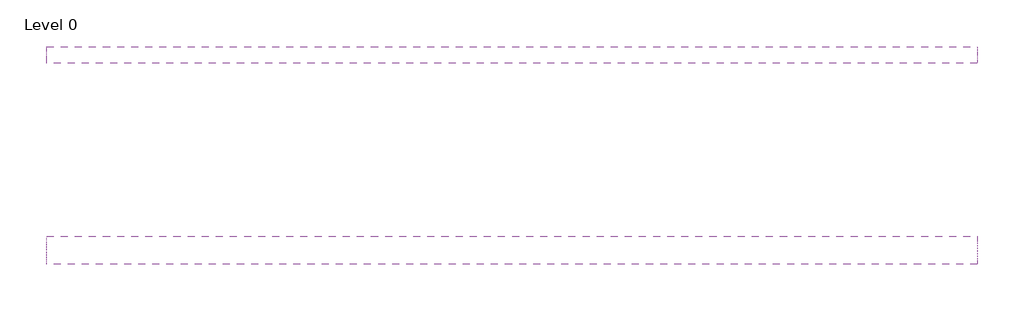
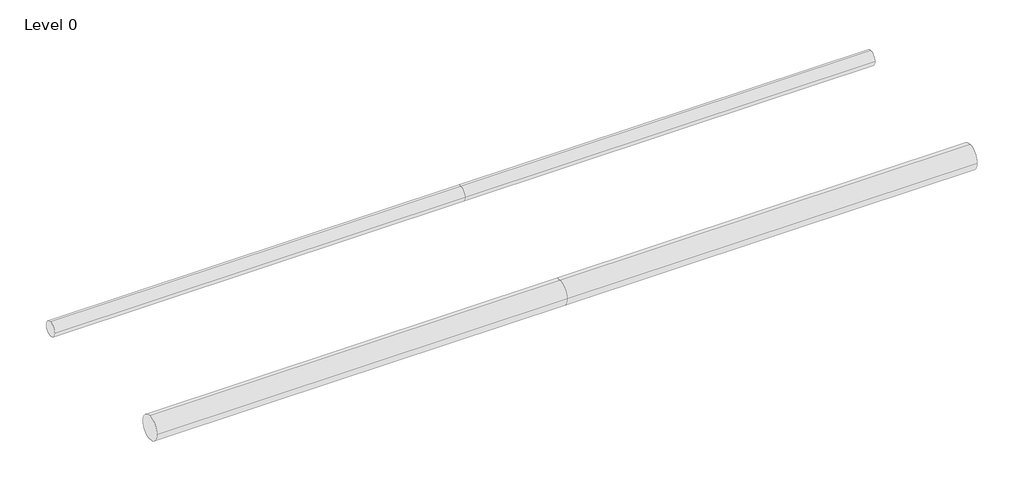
# One storey: 2 pipe segments.
"""IFC4 building model written with IfcOpenShell, lengths in millimetres."""

import ifcopenshell
import ifcopenshell.guid

model = None  # the IFC model being written
_history = None  # IfcOwnerHistory: only IFC2X3 demands one
_inside = {}  # id of a spatial element -> (the spatial element, [elements in it])
_under = {}  # id of a project, library or spatial element -> (it, [spatial elements below it])
_declared = {}  # id of a project -> (the project, [libraries it declares])
_typed = {}  # id of a type object -> (the type object, [elements of that type])
_made_of = {}  # id of a material, layer set ... -> (it, [elements and type objects made of it])


def new_model(schema):
    """Start an empty IFC model of exactly this schema.

    Asked for "IFC4X3", IfcOpenShell would pick the latest addendum, in which some entities
    have other attributes; the version numbers below select the first issue.
    IFC2X3 requires an IfcOwnerHistory on every rooted entity: one is made here for all.
    """
    global model, _history
    if schema == "IFC4X3":
        model = ifcopenshell.file(schema_version=(4, 3, 0, 0))
    else:
        model = ifcopenshell.file(schema=schema)
    _inside.clear()
    _under.clear()
    _declared.clear()
    _typed.clear()
    _made_of.clear()
    _history = None
    if model.schema == "IFC2X3":
        org = make("IfcOrganization", Name="unknown")
        user = make(
            "IfcPersonAndOrganization",
            ThePerson=make("IfcPerson", FamilyName="unknown"),
            TheOrganization=org,
        )
        app = make(
            "IfcApplication",
            ApplicationDeveloper=org,
            Version="unknown",
            ApplicationFullName="unknown",
            ApplicationIdentifier="unknown",
        )
        _history = make(
            "IfcOwnerHistory",
            OwningUser=user,
            OwningApplication=app,
            ChangeAction="ADDED",
            CreationDate=0,
        )
    return model


def make(cls, **values):
    """One entity of the class cls with the attributes given. An attribute that is None is left unset."""
    return model.create_entity(
        cls, **{name: value for name, value in values.items() if value is not None}
    )


def rooted(cls, **values):
    """An entity with a GlobalId (a new one), such as an element, a storey or a relation."""
    return make(cls, GlobalId=ifcopenshell.guid.new(), OwnerHistory=_history, **values)


def si_unit(unit_type, name, prefix=None):
    """IfcSIUnit, for example si_unit("LENGTHUNIT", "METRE", prefix="MILLI")."""
    return make("IfcSIUnit", UnitType=unit_type, Prefix=prefix, Name=name)


def assignment(units):
    """IfcUnitAssignment: the units of a project."""
    return None if units is None else make("IfcUnitAssignment", Units=units)


def point(xyz):
    """IfcCartesianPoint."""
    return None if xyz is None else make("IfcCartesianPoint", Coordinates=xyz)


def direction(xyz):
    """IfcDirection."""
    return None if xyz is None else make("IfcDirection", DirectionRatios=xyz)


def frame(location, z_axis=None, x_axis=None):
    """IfcAxis2Placement3D, a coordinate frame: its origin and axes. An axis left out is left unset."""
    return make(
        "IfcAxis2Placement3D",
        Location=point(location),
        Axis=direction(z_axis),
        RefDirection=direction(x_axis),
    )


def origin():
    """The frame at (0, 0, 0) with its axes left unset."""
    return frame((0.0, 0.0, 0.0))


def place(relative_to, where):
    """IfcLocalPlacement: puts the frame where relative to a parent placement (None: the world)."""
    return make(
        "IfcLocalPlacement", PlacementRelTo=relative_to, RelativePlacement=where
    )


def context(
    kind, dimensions, precision=None, world=None, true_north=None, identifier=None
):
    """IfcGeometricRepresentationContext, for example the 3D "Model" context."""
    return make(
        "IfcGeometricRepresentationContext",
        ContextIdentifier=identifier,
        ContextType=kind,
        CoordinateSpaceDimension=dimensions,
        Precision=precision,
        WorldCoordinateSystem=world,
        TrueNorth=true_north,
    )


def project(units=None, contexts=None):
    """IfcProject with its units and contexts."""
    return rooted(
        "IfcProject",
        Name="project",
        RepresentationContexts=contexts,
        UnitsInContext=assignment(units),
    )


def spatial(cls, under=None, at=None, **own):
    """A site, building, storey or space (cls), placed at a placement, below another one or the project."""
    s = rooted(cls, ObjectPlacement=at, **own)
    if under is not None:
        _under.setdefault(under.id(), (under, []))[1].append(s)
    return s


def circle_curve(where, radius):
    """IfcCircle in the frame where."""
    return make("IfcCircle", Position=where, Radius=radius)


def shape(context_of_items, identifier, shape_type, items):
    """IfcShapeRepresentation: the items that make up one representation, for example the "Body"."""
    return make(
        "IfcShapeRepresentation",
        ContextOfItems=context_of_items,
        RepresentationIdentifier=identifier,
        RepresentationType=shape_type,
        Items=items,
    )


def made_of(thing, what):
    """Note that an element or type object is made of a material, layer set ...; save() writes the relation."""
    if what is not None:
        _made_of.setdefault(what.id(), (what, []))[1].append(thing)
    return thing


def element(
    cls,
    number,
    at=None,
    inside=None,
    cuts=None,
    type_object=None,
    material=None,
    context=None,
    identifier="Body",
    shape_type=None,
    held_by="IfcProductDefinitionShape",
    body=None,
    shapes=None,
    **own,
):
    """One element of the class cls, such as IfcWall. Its Tag is "e" and its number.

    at: its placement. inside: the storey or other place that contains it. cuts: it is an
    opening in that element (IfcRelVoidsElement). A single representation is given by context,
    identifier, shape_type and body (its items); several are given by shapes. held_by: the class
    of the entity that holds the representations. save() writes the other relations.
    """
    e = rooted(cls, Tag="e%d" % number, ObjectPlacement=at, **own)
    if body is not None:
        shapes = [shape(context, identifier, shape_type, body)]
    if shapes is not None:
        e.Representation = make(held_by, Representations=shapes)
    if inside is not None:
        _inside.setdefault(inside.id(), (inside, []))[1].append(e)
    if cuts is not None:
        rooted(
            "IfcRelVoidsElement", RelatingBuildingElement=cuts, RelatedOpeningElement=e
        )
    if type_object is not None:
        _typed.setdefault(type_object.id(), (type_object, []))[1].append(e)
    return made_of(e, material)


def aggregate(whole, parts):
    """IfcRelAggregates: a whole, such as a stair, and the parts it consists of."""
    return rooted("IfcRelAggregates", RelatingObject=whole, RelatedObjects=parts)


def save(model, path):
    """Write the relations noted so far, then the file.

    IfcRelAggregates (storeys below a building ...), IfcRelContainedInSpatialStructure (elements
    in a storey), IfcRelDefinesByType, IfcRelAssociatesMaterial and IfcRelDeclares: one each for
    every whole, place, type object, material and project.
    """
    for whole, parts in _under.values():
        aggregate(whole, parts)
    for where, things in _inside.values():
        rooted(
            "IfcRelContainedInSpatialStructure",
            RelatedElements=things,
            RelatingStructure=where,
        )
    for kind, things in _typed.values():
        rooted("IfcRelDefinesByType", RelatedObjects=things, RelatingType=kind)
    for what, things in _made_of.values():
        rooted("IfcRelAssociatesMaterial", RelatedObjects=things, RelatingMaterial=what)
    for by, libraries in _declared.values():
        rooted("IfcRelDeclares", RelatingContext=by, RelatedDefinitions=libraries)
    model.write(path)


def plane_surface(at):
    """IfcPlane: the flat surface through the origin of the frame at, square to its z axis."""
    return make("IfcPlane", Position=at)


def cylinder_surface(at, radius):
    """IfcCylindricalSurface: all points at the distance radius from the z axis of the frame at."""
    return make("IfcCylindricalSurface", Position=at, Radius=radius)


def advanced_brep(points, edges, surfaces, faces):
    """IfcAdvancedBrep: a solid bounded by faces that lie on surfaces and meet in shared edges.

    An edge is (start, end): straight between two places in points (the first is 0);
    or (start, end, curve); or (start, end, curve, False) where it runs against its curve.
    A face is (place in surfaces, loops), or (place, loops, False) where it looks against
    its surface's normal. A loop lists edges by number (the first is 1), with a minus sign
    where the edge is run from its end to its start. The first loop is the outer one.
    """
    corners = [point(p) for p in points]
    vertices = [make("IfcVertexPoint", VertexGeometry=c) for c in corners]
    made = []
    for start, end, *more in edges:
        made.append(
            make(
                "IfcEdgeCurve",
                EdgeStart=vertices[start],
                EdgeEnd=vertices[end],
                EdgeGeometry=more[0] if more else make("IfcPolyline", Points=[corners[start], corners[end]]),
                SameSense=more[1] if len(more) > 1 else True,
            )
        )
    hull = []
    for where, loops, *sense in faces:
        bounds = []
        for j, loop in enumerate(loops):
            ring = [make("IfcOrientedEdge", EdgeElement=made[abs(k) - 1], Orientation=k > 0) for k in loop]
            bounds.append(
                make(
                    "IfcFaceOuterBound" if j == 0 else "IfcFaceBound",
                    Bound=make("IfcEdgeLoop", EdgeList=ring),
                    Orientation=True,
                )
            )
        hull.append(make("IfcAdvancedFace", Bounds=bounds, FaceSurface=surfaces[where], SameSense=sense[0] if sense else True))
    return make("IfcAdvancedBrep", Outer=make("IfcClosedShell", CfsFaces=hull))


model = new_model("IFC4")

# Units and contexts
model_context = context("Model", 3, world=origin())
ifc_project = project(units=[si_unit("LENGTHUNIT", "METRE", prefix="MILLI")], contexts=[model_context])

# Site, building, storey
site = spatial("IfcSite", under=ifc_project)
building = spatial("IfcBuilding", under=site)
storey = spatial("IfcBuildingStorey", under=building, Name="Level 0", Elevation=0.0)

# Pipe segments
placement = place(None, origin())
element("IfcPipeSegment", 1, ObjectType="NBS_DeltaMembraneSystemsLtd_PolyethylenePEStructuredWallPerforatedBelow-groundDrainagePipesAndFittings_DeltaAquaduct", at=placement, inside=storey, context=model_context, shape_type="AdvancedBrep", body=[
    advanced_brep(
    [(0.0, 30.0, 2750.0), (0.0, 0.0, 2720.0), (0.0, -30.0, 2750.0), (0.0, 0.0, 2780.0), (1667.2203269, 30.0, 2750.0), (1667.2203269, 0.0, 2720.0), (1667.2203269, -30.0, 2750.0), (1667.2203269, 0.0, 2780.0), (3334.4406538, 30.0, 2750.0), (3334.4406538, 0.0, 2780.0), (3334.4406538, -30.0, 2750.0), (3334.4406538, 0.0, 2720.0)],
    [
        (0, 1, circle_curve(frame((0.0, 0.0, 2750.0), z_axis=(-1.0, 0.0, 0.0), x_axis=(0.0, 1.0, 0.0)), 30.0)),
        (1, 2, circle_curve(frame((0.0, 0.0, 2750.0), z_axis=(-1.0, 0.0, 0.0), x_axis=(0.0, 1.0, 0.0)), 30.0)),
        (2, 3, circle_curve(frame((0.0, 0.0, 2750.0), z_axis=(-1.0, 0.0, 0.0), x_axis=(0.0, 1.0, 0.0)), 30.0)),
        (3, 0, circle_curve(frame((0.0, 0.0, 2750.0), z_axis=(-1.0, 0.0, 0.0), x_axis=(0.0, 1.0, 0.0)), 30.0)),
        (0, 4),
        (4, 5, circle_curve(frame((1667.2203269, 0.0, 2750.0), z_axis=(-1.0, 0.0, 0.0), x_axis=(0.0, 1.0, 0.0)), 30.0)),
        (5, 1),
        (5, 6, circle_curve(frame((1667.2203269, 0.0, 2750.0), z_axis=(-1.0, 0.0, 0.0), x_axis=(0.0, 1.0, 0.0)), 30.0)),
        (6, 2),
        (6, 7, circle_curve(frame((1667.2203269, 0.0, 2750.0), z_axis=(-1.0, 0.0, 0.0), x_axis=(0.0, 1.0, 0.0)), 30.0)),
        (7, 3),
        (7, 4, circle_curve(frame((1667.2203269, 0.0, 2750.0), z_axis=(-1.0, 0.0, 0.0), x_axis=(0.0, 1.0, 0.0)), 30.0)),
        (8, 9, circle_curve(frame((3334.4406538, 0.0, 2750.0), z_axis=(1.0, 0.0, 0.0), x_axis=(0.0, 1.0, 0.0)), 30.0)),
        (9, 10, circle_curve(frame((3334.4406538, 0.0, 2750.0), z_axis=(1.0, 0.0, 0.0), x_axis=(0.0, 1.0, 0.0)), 30.0)),
        (10, 11, circle_curve(frame((3334.4406538, 0.0, 2750.0), z_axis=(1.0, 0.0, 0.0), x_axis=(0.0, 1.0, 0.0)), 30.0)),
        (11, 8, circle_curve(frame((3334.4406538, 0.0, 2750.0), z_axis=(1.0, 0.0, 0.0), x_axis=(0.0, 1.0, 0.0)), 30.0)),
        (4, 8),
        (11, 5),
        (10, 6),
        (9, 7),
    ],
    [
        plane_surface(frame((0.0, 0.0, 2720.0), z_axis=(-1.0, 0.0, 0.0), x_axis=(0.0, 1.0, 0.0))),
        cylinder_surface(frame((0.0, 0.0, 2750.0), z_axis=(-1.0, 0.0, 0.0), x_axis=(0.0, 1.0, 0.0)), 30.0),
        plane_surface(frame((3334.4406538, 0.0, 2720.0), z_axis=(1.0, 0.0, 0.0), x_axis=(0.0, 1.0, 0.0))),
        cylinder_surface(frame((1667.2203269, 0.0, 2750.0), z_axis=(-1.0, 0.0, 0.0), x_axis=(0.0, 1.0, 0.0)), 30.0),
    ],
    [
        (0, [[1, 2, 3, 4]]),
        (1, [[-1, 5, 6, 7]]),
        (1, [[-2, -7, 8, 9]]),
        (1, [[-3, -9, 10, 11]]),
        (1, [[-4, -11, 12, -5]]),
        (2, [[13, 14, 15, 16]]),
        (3, [[-6, 17, -16, 18]]),
        (3, [[-8, -18, -15, 19]]),
        (3, [[-10, -19, -14, 20]]),
        (3, [[-12, -20, -13, -17]]),
    ],
),
])
element("IfcPipeSegment", 2, ObjectType="NBS_DeltaMembraneSystemsLtd_PolyethylenePEStructuredWallPerforatedBelow-groundDrainagePipesAndFittings_DeltaAquaduct", at=placement, inside=storey, context=model_context, shape_type="AdvancedBrep", body=[
    advanced_brep(
    [(0.0, -650.0, 2750.0), (0.0, -700.0, 2700.0), (0.0, -750.0, 2750.0), (0.0, -700.0, 2800.0), (1667.2203269, -650.0, 2750.0), (1667.2203269, -700.0, 2700.0), (1667.2203269, -750.0, 2750.0), (1667.2203269, -700.0, 2800.0), (3334.4406538, -650.0, 2750.0), (3334.4406538, -700.0, 2800.0), (3334.4406538, -750.0, 2750.0), (3334.4406538, -700.0, 2700.0)],
    [
        (0, 1, circle_curve(frame((0.0, -700.0, 2750.0), z_axis=(-1.0, 0.0, 0.0), x_axis=(0.0, 1.0, 0.0)), 50.0)),
        (1, 2, circle_curve(frame((0.0, -700.0, 2750.0), z_axis=(-1.0, 0.0, 0.0), x_axis=(0.0, 1.0, 0.0)), 50.0)),
        (2, 3, circle_curve(frame((0.0, -700.0, 2750.0), z_axis=(-1.0, 0.0, 0.0), x_axis=(0.0, 1.0, 0.0)), 50.0)),
        (3, 0, circle_curve(frame((0.0, -700.0, 2750.0), z_axis=(-1.0, 0.0, 0.0), x_axis=(0.0, 1.0, 0.0)), 50.0)),
        (0, 4),
        (4, 5, circle_curve(frame((1667.2203269, -700.0, 2750.0), z_axis=(-1.0, 0.0, 0.0), x_axis=(0.0, 1.0, 0.0)), 50.0)),
        (5, 1),
        (5, 6, circle_curve(frame((1667.2203269, -700.0, 2750.0), z_axis=(-1.0, 0.0, 0.0), x_axis=(0.0, 1.0, 0.0)), 50.0)),
        (6, 2),
        (6, 7, circle_curve(frame((1667.2203269, -700.0, 2750.0), z_axis=(-1.0, 0.0, 0.0), x_axis=(0.0, 1.0, 0.0)), 50.0)),
        (7, 3),
        (7, 4, circle_curve(frame((1667.2203269, -700.0, 2750.0), z_axis=(-1.0, 0.0, 0.0), x_axis=(0.0, 1.0, 0.0)), 50.0)),
        (8, 9, circle_curve(frame((3334.4406538, -700.0, 2750.0), z_axis=(1.0, 0.0, 0.0), x_axis=(0.0, 1.0, 0.0)), 50.0)),
        (9, 10, circle_curve(frame((3334.4406538, -700.0, 2750.0), z_axis=(1.0, 0.0, 0.0), x_axis=(0.0, 1.0, 0.0)), 50.0)),
        (10, 11, circle_curve(frame((3334.4406538, -700.0, 2750.0), z_axis=(1.0, 0.0, 0.0), x_axis=(0.0, 1.0, 0.0)), 50.0)),
        (11, 8, circle_curve(frame((3334.4406538, -700.0, 2750.0), z_axis=(1.0, 0.0, 0.0), x_axis=(0.0, 1.0, 0.0)), 50.0)),
        (4, 8),
        (11, 5),
        (10, 6),
        (9, 7),
    ],
    [
        plane_surface(frame((0.0, -700.0, 2700.0), z_axis=(-1.0, 0.0, 0.0), x_axis=(0.0, 1.0, 0.0))),
        cylinder_surface(frame((0.0, -700.0, 2750.0), z_axis=(-1.0, 0.0, 0.0), x_axis=(0.0, 1.0, 0.0)), 50.0),
        plane_surface(frame((3334.4406538, -700.0, 2700.0), z_axis=(1.0, 0.0, 0.0), x_axis=(0.0, 1.0, 0.0))),
        cylinder_surface(frame((1667.2203269, -700.0, 2750.0), z_axis=(-1.0, 0.0, 0.0), x_axis=(0.0, 1.0, 0.0)), 50.0),
    ],
    [
        (0, [[1, 2, 3, 4]]),
        (1, [[-1, 5, 6, 7]]),
        (1, [[-2, -7, 8, 9]]),
        (1, [[-3, -9, 10, 11]]),
        (1, [[-4, -11, 12, -5]]),
        (2, [[13, 14, 15, 16]]),
        (3, [[-6, 17, -16, 18]]),
        (3, [[-8, -18, -15, 19]]),
        (3, [[-10, -19, -14, 20]]),
        (3, [[-12, -20, -13, -17]]),
    ],
),
])

save(model, "model.ifc")
